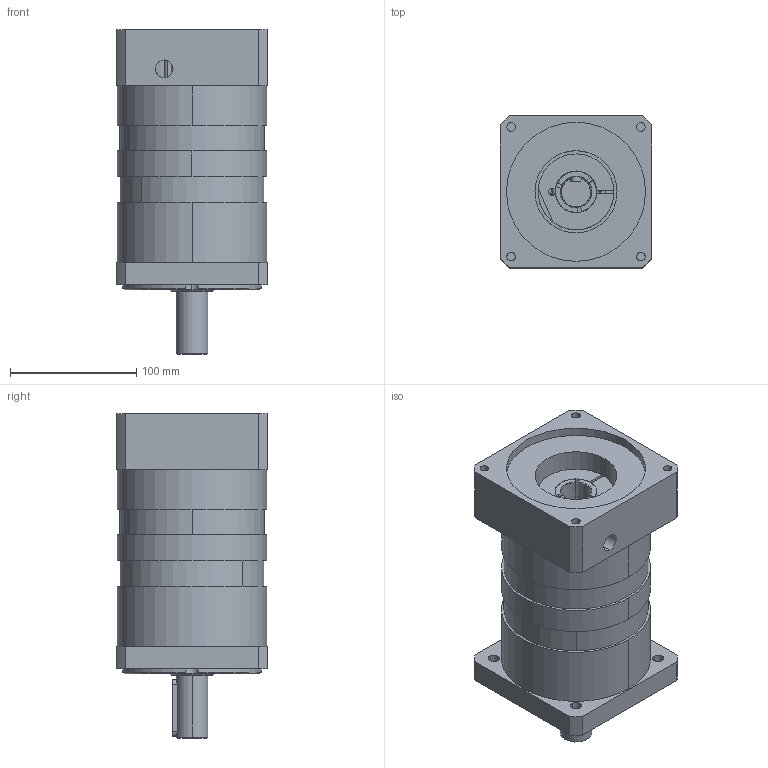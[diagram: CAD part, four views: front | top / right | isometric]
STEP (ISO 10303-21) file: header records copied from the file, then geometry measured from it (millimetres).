
FILE_DESCRIPTION (( 'STEP AP214' ), '1' );
FILE_NAME ('118媼撰源怀堤俋褲.STEP', '2017-04-27T05:13:12', ( '' ), ( '' ), 'SwSTEP 2.0', 'SolidWorks 2016', '' );
FILE_SCHEMA (( 'AUTOMOTIVE_DESIGN' ));
Length unit declared in the file: millimetre
Products named in the file (1): 118媼撰源怀堤俋褲
Bounding box: 120 x 120 x 257 mm (x, y, z)
Surface area: 160004.1 mm2 (no closed solid volume)
Topology: 0 solids, 15 shells, 154 faces, 467 edges, 327 vertices
Faces by surface type: cylinder 91, plane 43, cone 16, torus 4
Entity records: 7335 total; most frequent: CARTESIAN_POINT 1270, DIRECTION 996, ORIENTED_EDGE 788, EDGE_CURVE 467, AXIS2_PLACEMENT_3D 403, VERTEX_POINT 327, CIRCLE 248, EDGE_LOOP 192
